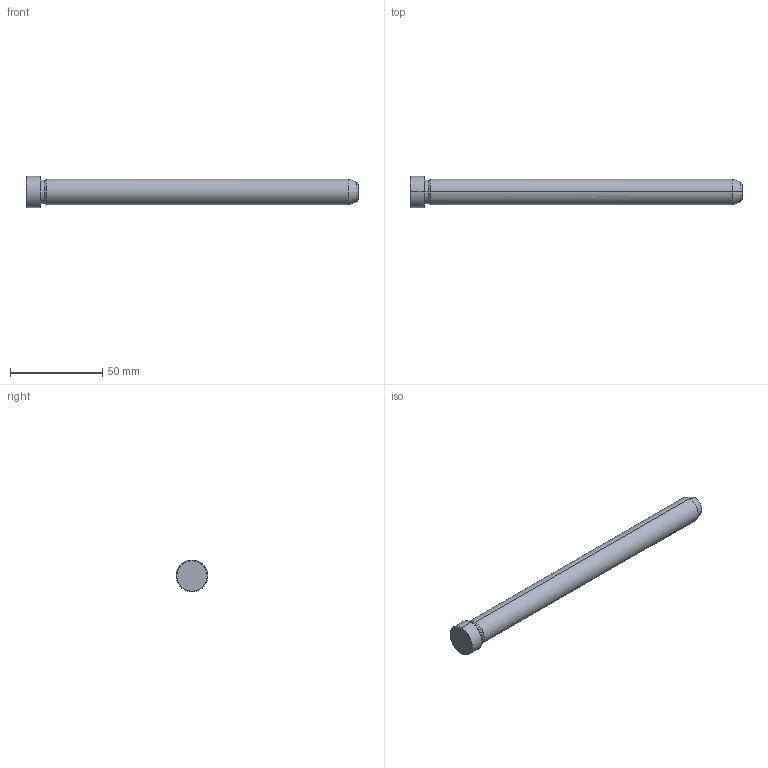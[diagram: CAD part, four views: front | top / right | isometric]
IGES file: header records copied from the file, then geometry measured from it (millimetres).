
Start section: START RECORD GO HERE.
Global section: file name: 549-14X180.igs; native system: DASSAULT SYSTEMES CATIA V5 R20 - www.3ds.com; preprocessor: CATIA Version 5 Release 20 ; author: Utente; organization: NB04-ASUS; date: 20211211.102917; units: millimetre
Bounding box: 180 x 17 x 17 mm (x, y, z)
Surface area: 8348.1 mm2 (no closed solid volume)
Topology: 0 solids, 0 shells, 19 faces, 112 edges, 112 vertices
Faces by surface type: revolution 16, plane 3
